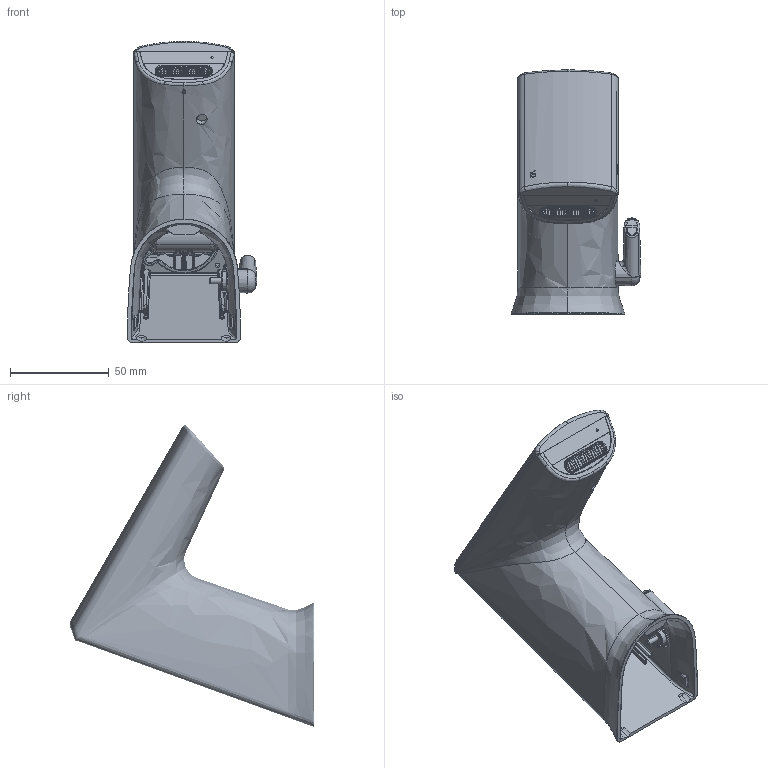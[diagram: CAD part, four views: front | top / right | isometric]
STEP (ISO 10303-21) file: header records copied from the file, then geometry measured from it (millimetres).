
FILE_DESCRIPTION (( 'STEP AP214' ), '1' );
FILE_NAME ('Ultra GS10 5471.STEP', '2014-07-24T11:39:29', ( 'admin' ), ( 'Hewlett-Packard Company' ), 'SwSTEP 2.0', 'SolidWorks 2013', '' );
FILE_SCHEMA (( 'AUTOMOTIVE_DESIGN' ));
Length unit declared in the file: millimetre
Products named in the file (1): Ultra GS10 5471
Bounding box: 65.64 x 123.67 x 152.63 mm (x, y, z)
Volume: 91317.4 mm3; surface area: 102363.8 mm2
Topology: 9 solids, 9 shells, 6000 faces, 15620 edges, 9421 vertices
Faces by surface type: bspline 1775, cylinder 1730, plane 1671, cone 323, torus 266, sphere 235
Entity records: 240501 total; most frequent: CARTESIAN_POINT 105587, ORIENTED_EDGE 30742, DIRECTION 22221, EDGE_CURVE 15371, VERTEX_POINT 9381, AXIS2_PLACEMENT_3D 8286, EDGE_LOOP 6210, FACE_OUTER_BOUND 6000
